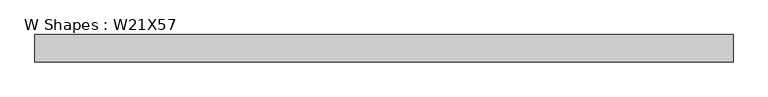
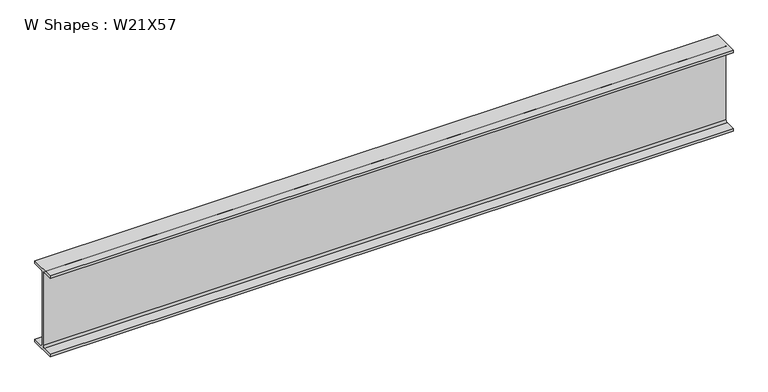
"""IFC4 building model written with IfcOpenShell, lengths in millimetres: beam geometry, W Shapes : W21X57."""

from ifc_helpers import new_model, si_unit, point, frame, frame_2d, origin, place, context, project, spatial, polyline, circle_curve, trimmed, segment, composite_curve, outline, extrude, source, transform, mapped, element, save


def w_shapes_w21x57_1adb2465(model_context):
    return source(origin(), model_context, "Body", "SweptSolid", [
        extrude(outline(composite_curve([segment(polyline([(83.312, -251.46), (83.312, -267.97), (-83.312, -267.97), (-83.312, -251.46), (-17.8435, -251.46)]), True, "CONTINUOUS"), segment(trimmed(circle_curve(frame_2d((-17.8435, -238.76)), 12.7), [point((-17.8435, -251.46))], [point((-5.1435, -238.76))], True, "CARTESIAN"), True, "CONTINUOUS"), segment(polyline([(-5.1435, -238.76), (-5.1435, 238.76)]), True, "CONTINUOUS"), segment(trimmed(circle_curve(frame_2d((-17.8435, 238.76)), 12.7), [point((-5.1435, 238.76))], [point((-17.8435, 251.46))], True, "CARTESIAN"), True, "CONTINUOUS"), segment(polyline([(-17.8435, 251.46), (-83.312, 251.46), (-83.312, 267.97), (83.312, 267.97), (83.312, 251.46), (17.8435, 251.46)]), True, "CONTINUOUS"), segment(trimmed(circle_curve(frame_2d((17.8435, 238.76)), 12.7), [point((17.8435, 251.46))], [point((5.1435, 238.76))], True, "CARTESIAN"), True, "CONTINUOUS"), segment(polyline([(5.1435, 238.76), (5.1435, -238.76)]), True, "CONTINUOUS"), segment(trimmed(circle_curve(frame_2d((17.8435, -238.76)), 12.7), [point((5.1435, -238.76))], [point((17.8435, -251.46))], True, "CARTESIAN"), True, "CONTINUOUS"), segment(polyline([(17.8435, -251.46), (83.312, -251.46)]), True, "CONTINUOUS")], self_intersect=False)), frame((-2099.5171424, 0.0, 0.0), z_axis=(1.0, 0.0, 0.0), x_axis=(0.0, 1.0, 0.0)), (0.0, 0.0, 1.0), 4273.8568363),
    ])


if __name__ == "__main__":
    model = new_model("IFC4")
    model_context = context("Model", 3, world=origin())
    ifc_project = project(units=[si_unit("LENGTHUNIT", "METRE", prefix="MILLI")], contexts=[model_context])
    site = spatial("IfcSite", under=ifc_project)
    building = spatial("IfcBuilding", under=site)
    placement = place(None, origin())
    w_shapes_w21x57_shape = w_shapes_w21x57_1adb2465(model_context)
    element("IfcBeam", 1, ObjectType="W Shapes : W21X57", at=placement, inside=building, context=model_context, shape_type="MappedRepresentation", body=[
        mapped(w_shapes_w21x57_shape, transform((0.0, 0.0, 0.0), x_axis=(1.0, 0.0, 0.0), y_axis=(0.0, 1.0, 0.0), z_axis=(0.0, 0.0, 1.0))),
    ])
    save(model, "model.ifc")
